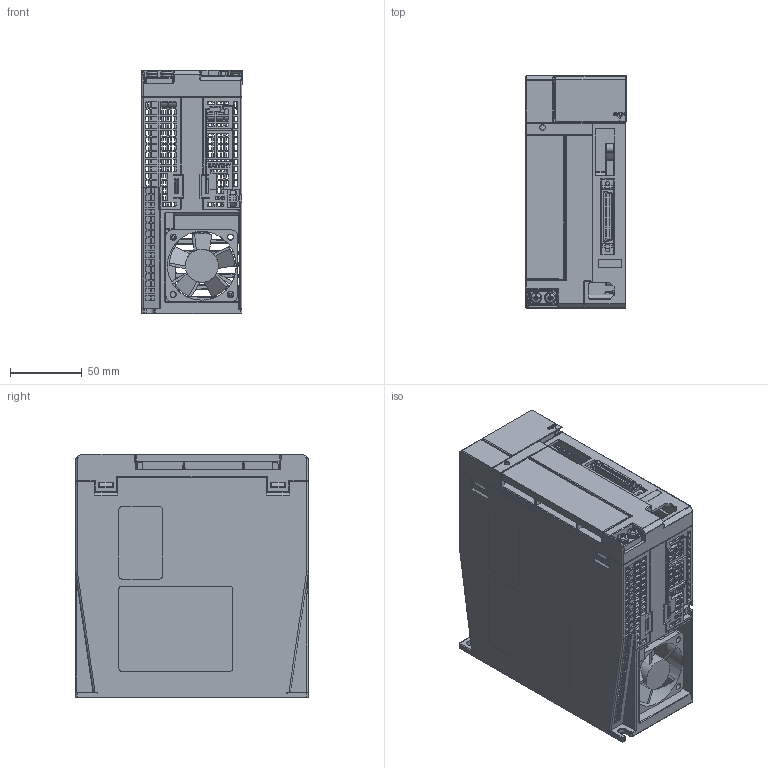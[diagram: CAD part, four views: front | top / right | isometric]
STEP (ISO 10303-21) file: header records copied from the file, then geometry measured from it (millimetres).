
FILE_DESCRIPTION((''),'2;1');
FILE_NAME('C:\Documents and Settings\11254\桌面\SDE\SDE_B_OK.stp','2016-10-12T10:56:45',('11254'),(''),'Autodesk Inventor 2008','Autodesk Inventor 2008','');
FILE_SCHEMA(('AUTOMOTIVE_DESIGN { 1 0 10303 214 1 1 1 1 }'));
Length unit declared in the file: millimetre
Products named in the file (2): SDE_B; SDE_B_11
Assembly tree (1 placements, depth 2):
  SDE_B
    SDE_B_11
Bounding box: 70.29 x 162 x 170 mm (x, y, z)
Volume: 397199.8 mm3; surface area: 322338.9 mm2
Topology: 2 solids, 2 shells, 5819 faces, 16323 edges, 10574 vertices
Faces by surface type: plane 4163, cylinder 1308, bspline 117, sphere 91, torus 85, cone 55
Full cylindrical faces by diameter (mm): 2 x4, 2.2 x3, 2.6 x2, 3 x14, 3.621 x2, 4 x12, 4.3 x6, 5.5 x2, 8 x2, 23 x1, 48 x1
Entity records: 189792 total; most frequent: CARTESIAN_POINT 37682, ORIENTED_EDGE 32280, DIRECTION 30241, EDGE_CURVE 16140, VECTOR 12961, LINE 12961, VERTEX_POINT 10552, AXIS2_PLACEMENT_3D 8640
